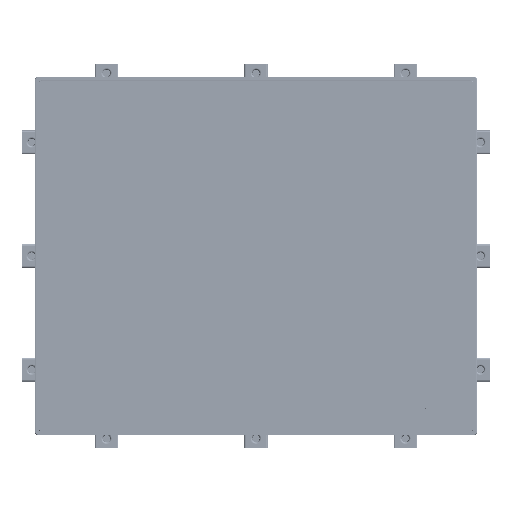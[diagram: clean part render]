
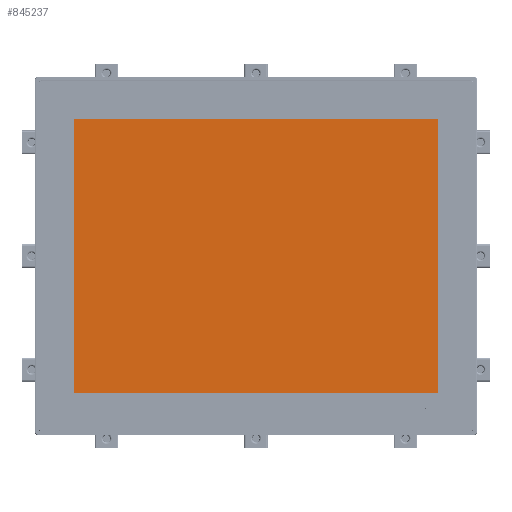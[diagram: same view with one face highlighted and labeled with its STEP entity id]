
A CAD part, top view. The second image highlights one B-rep face of the part: STEP entity #845237.
In plain terms, the highlighted planar face has unit normal (0, 0, 1).
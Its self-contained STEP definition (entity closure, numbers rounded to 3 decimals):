
#844629=DIRECTION('',(0.,1.,0.));
#844630=VECTOR('',#844629,229.03);
#844631=CARTESIAN_POINT('',(-152.6,-114.515,4.5));
#844632=LINE('',#844631,#844630);
#844645=DIRECTION('',(-1.,0.,0.));
#844646=VECTOR('',#844645,305.2);
#844647=CARTESIAN_POINT('',(152.6,-114.515,4.5));
#844648=LINE('',#844647,#844646);
#844649=DIRECTION('',(1.,0.,0.));
#844650=VECTOR('',#844649,305.2);
#844651=CARTESIAN_POINT('',(-152.6,114.515,4.5));
#844652=LINE('',#844651,#844650);
#844697=DIRECTION('',(0.,-1.,0.));
#844698=VECTOR('',#844697,229.03);
#844699=CARTESIAN_POINT('',(152.6,114.515,4.5));
#844700=LINE('',#844699,#844698);
#844721=CARTESIAN_POINT('',(152.6,-114.515,4.5));
#844722=VERTEX_POINT('',#844721);
#844723=CARTESIAN_POINT('',(-152.6,-114.515,4.5));
#844724=VERTEX_POINT('',#844723);
#844731=CARTESIAN_POINT('',(-152.6,114.515,4.5));
#844732=VERTEX_POINT('',#844731);
#844783=CARTESIAN_POINT('',(152.6,114.515,4.5));
#844785=VERTEX_POINT('',#844783);
#845224=CARTESIAN_POINT('',(0.,0.,4.5));
#845225=DIRECTION('',(0.,0.,1.));
#845226=DIRECTION('',(-1.,0.,0.));
#845227=AXIS2_PLACEMENT_3D('',#845224,#845225,#845226);
#845228=PLANE('',#845227);
#845229=ORIENTED_EDGE('',*,*,#845167,.T.);
#845231=ORIENTED_EDGE('',*,*,#845230,.T.);
#845233=ORIENTED_EDGE('',*,*,#845232,.T.);
#845234=ORIENTED_EDGE('',*,*,#845208,.T.);
#845235=EDGE_LOOP('',(#845229,#845231,#845233,#845234));
#845236=FACE_OUTER_BOUND('',#845235,.F.);
#845237=ADVANCED_FACE('',(#845236),#845228,.T.);
#845167=EDGE_CURVE('',#844724,#844732,#844632,.T.);
#845208=EDGE_CURVE('',#844722,#844724,#844648,.T.);
#845230=EDGE_CURVE('',#844732,#844785,#844652,.T.);
#845232=EDGE_CURVE('',#844785,#844722,#844700,.T.);
